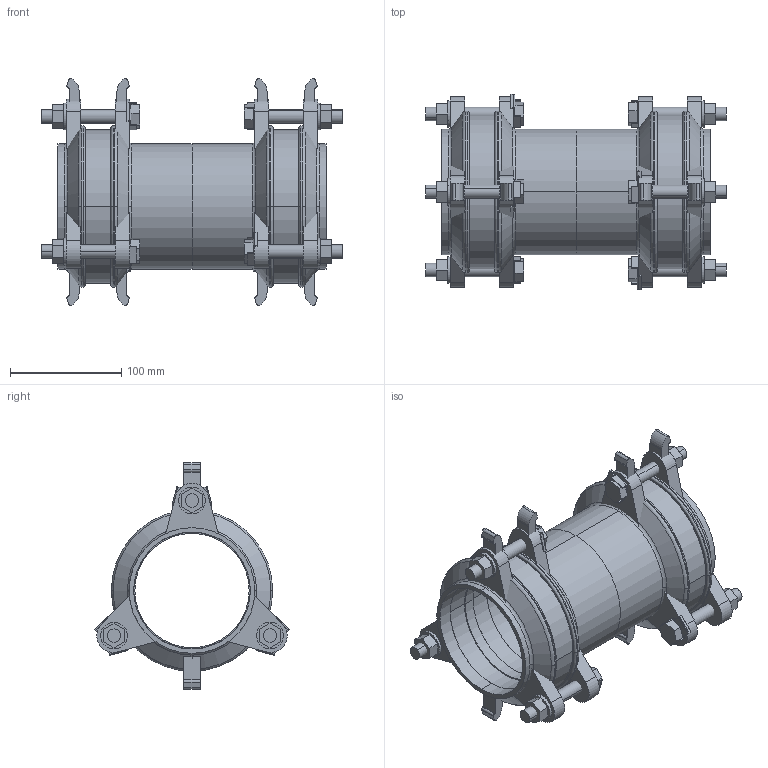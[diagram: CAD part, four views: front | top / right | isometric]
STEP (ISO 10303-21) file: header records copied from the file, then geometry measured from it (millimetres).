
FILE_DESCRIPTION(('STEP AP214'),'1');
FILE_NAME('MJ000039 DN 80.STP','2015-02-06T12:00:55',(' '),(' '),'Spatial InterOp 3D',' ',' ');
FILE_SCHEMA(('automotive_design'));
Length unit declared in the file: millimetre
Products named in the file (66): 3D-Objekt
Bounding box: 270 x 175.37 x 204 mm (x, y, z)
Volume: 1193497.3 mm3; surface area: 444836.3 mm2
Topology: 66 solids, 66 shells, 526 faces, 1178 edges, 784 vertices
Faces by surface type: plane 352, cylinder 134, torus 24, cone 16
Entity records: 20426 total; most frequent: DIRECTION 2730, CARTESIAN_POINT 2554, ORIENTED_EDGE 2356, EDGE_CURVE 1178, AXIS2_PLACEMENT_3D 960, LINE 810, VECTOR 810, VERTEX_POINT 784
